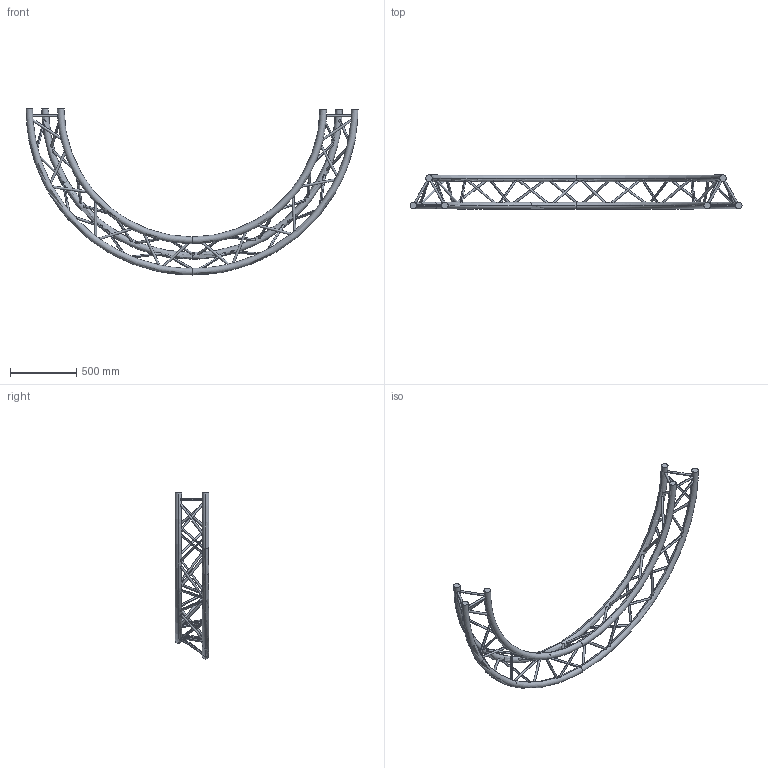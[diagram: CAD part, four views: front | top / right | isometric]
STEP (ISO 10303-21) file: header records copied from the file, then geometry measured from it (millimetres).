
FILE_DESCRIPTION (( 'STEP AP203' ), '1' );
FILE_NAME ('SXC29250PH.STEP', '2009-10-21T08:25:25', ( 'CEDIA' ), ( 'CEDIA INDUSTRIE' ), 'SwSTEP 2.0', 'SolidWorks 2009', '' );
FILE_SCHEMA (( 'CONFIG_CONTROL_DESIGN' ));
Length unit declared in the file: millimetre
Products named in the file (1): SXC29250PH
Bounding box: 2500 x 255.25 x 1250 mm (x, y, z)
Volume: 22908296.7 mm3; surface area: 2233351.4 mm2
Topology: 1 solids, 1 shells, 114 faces, 356 edges, 214 vertices
Faces by surface type: cylinder 96, torus 12, plane 6
Entity records: 12586 total; most frequent: CARTESIAN_POINT 9558, ORIENTED_EDGE 712, DIRECTION 454, EDGE_CURVE 356, VERTEX_POINT 214, B_SPLINE_CURVE_WITH_KNOTS 196, AXIS2_PLACEMENT_3D 179, EDGE_LOOP 176
